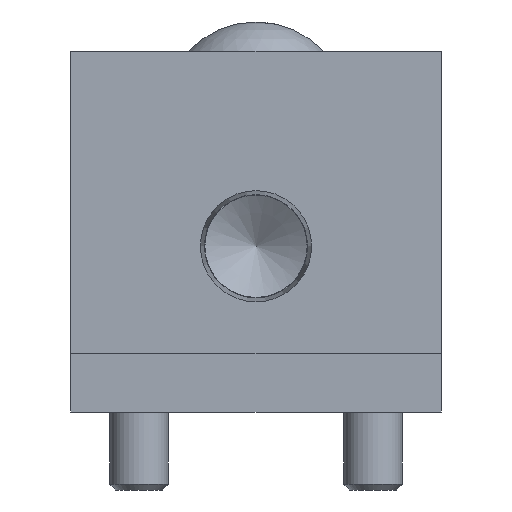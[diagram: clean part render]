
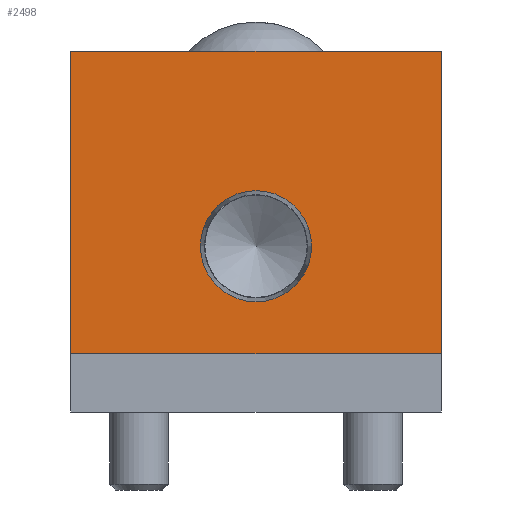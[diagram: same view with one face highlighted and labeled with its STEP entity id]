
A CAD part, front view. The second image highlights one B-rep face of the part: STEP entity #2498.
In plain terms, the highlighted planar face has unit normal (0, -1, 0).
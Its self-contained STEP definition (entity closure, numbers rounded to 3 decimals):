
#209=FACE_BOUND('',#551,.T.);
#297=CIRCLE('',#2674,5.704);
#380=FACE_OUTER_BOUND('',#550,.T.);
#550=EDGE_LOOP('',(#1684,#1685,#1686,#1687));
#551=EDGE_LOOP('',(#1688));
#807=LINE('',#3664,#975);
#822=LINE('',#3695,#990);
#823=LINE('',#3697,#991);
#824=LINE('',#3698,#992);
#975=VECTOR('',#2948,31.);
#990=VECTOR('',#2971,38.);
#991=VECTOR('',#2972,38.);
#992=VECTOR('',#2973,31.);
#1140=VERTEX_POINT('',#3657);
#1143=VERTEX_POINT('',#3662);
#1153=VERTEX_POINT('',#3686);
#1156=VERTEX_POINT('',#3696);
#1157=VERTEX_POINT('',#3699);
#1366=EDGE_CURVE('',#1140,#1143,#807,.T.);
#1381=EDGE_CURVE('',#1140,#1153,#822,.T.);
#1382=EDGE_CURVE('',#1143,#1156,#823,.T.);
#1383=EDGE_CURVE('',#1153,#1156,#824,.T.);
#1384=EDGE_CURVE('',#1157,#1157,#297,.T.);
#1684=ORIENTED_EDGE('',*,*,#1381,.F.);
#1685=ORIENTED_EDGE('',*,*,#1366,.T.);
#1686=ORIENTED_EDGE('',*,*,#1382,.T.);
#1687=ORIENTED_EDGE('',*,*,#1383,.F.);
#1688=ORIENTED_EDGE('',*,*,#1384,.T.);
#2270=PLANE('',#2673);
#2498=ADVANCED_FACE('',(#380,#209),#2270,.T.);
#2673=AXIS2_PLACEMENT_3D('',#3694,#2969,#2970);
#2674=AXIS2_PLACEMENT_3D('',#3700,#2974,#2975);
#2948=DIRECTION('',(0.,0.,1.));
#2969=DIRECTION('center_axis',(0.,-1.,0.));
#2970=DIRECTION('ref_axis',(0.,0.,-1.));
#2971=DIRECTION('',(-1.,0.,0.));
#2972=DIRECTION('',(-1.,0.,0.));
#2973=DIRECTION('',(0.,0.,1.));
#2974=DIRECTION('center_axis',(0.,1.,0.));
#2975=DIRECTION('ref_axis',(1.,0.,0.));
#3657=CARTESIAN_POINT('',(19.,0.,6.));
#3662=CARTESIAN_POINT('',(19.,0.,37.));
#3664=CARTESIAN_POINT('',(19.,0.,0.));
#3686=CARTESIAN_POINT('',(-19.,0.,6.));
#3694=CARTESIAN_POINT('Origin',(19.,0.,0.));
#3695=CARTESIAN_POINT('',(0.,0.,6.));
#3696=CARTESIAN_POINT('',(-19.,0.,37.));
#3697=CARTESIAN_POINT('',(19.,0.,37.));
#3698=CARTESIAN_POINT('',(-19.,0.,0.));
#3699=CARTESIAN_POINT('',(5.704,0.,17.));
#3700=CARTESIAN_POINT('Origin',(0.,0.,17.));
